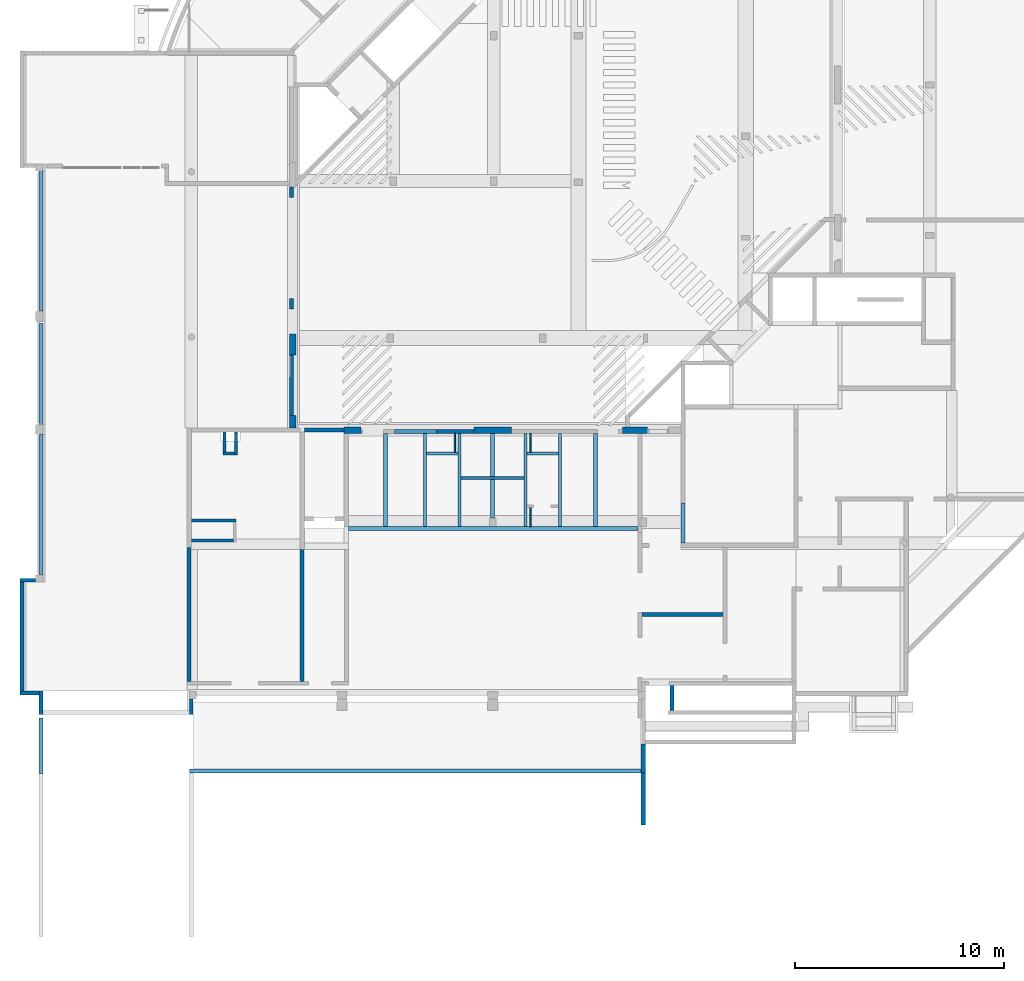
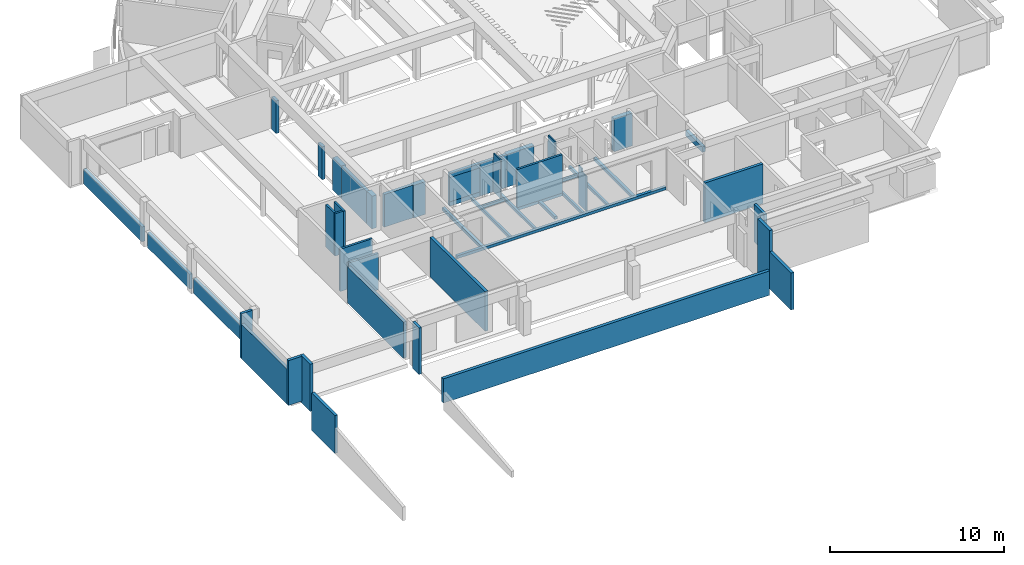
# One storey, part 7 of 22: 50 walls.
"""IFC4X3_ADD2 building model written with IfcOpenShell, lengths in millimetres."""

from ifc_helpers import new_model, si_unit, direction, frame, frame_2d, origin_with_axes, origin_2d_with_axis, place, context, subcontext, project, spatial, polyline, rectangle, outline, extrude, source, transform, mapped, material, type_object, type_shapes, element, save


model = new_model("IFC4X3_ADD2")

# Units and contexts
model_context = context("Model", 3, precision=1e-05, world=origin_with_axes(), true_north=direction((0.0, 1.0)))
body_context = subcontext(model_context, "Body", "Model", "MODEL_VIEW")
ifc_project = project(units=[si_unit("LENGTHUNIT", "METRE", prefix="MILLI"), si_unit("AREAUNIT", "SQUARE_METRE"), si_unit("VOLUMEUNIT", "CUBIC_METRE"), si_unit("PLANEANGLEUNIT", "RADIAN"), si_unit("TIMEUNIT", "SECOND"), si_unit("MASSUNIT", "GRAM")], contexts=[model_context])

# Site, building, storey
site_placement = place(None, origin_with_axes())
site = spatial("IfcSite", under=ifc_project, at=site_placement, Name="Site", CompositionType="ELEMENT")
building_placement = place(site_placement, origin_with_axes())
building = spatial("IfcBuilding", under=site, at=building_placement, Name="IFC Building Story")
storey_placement = place(building_placement, frame((0.0, 0.0, -3240.0), z_axis=(0.0, 0.0, 1.0), x_axis=(1.0, 0.0, 0.0)))
storey = spatial("IfcBuildingStorey", under=building, at=storey_placement, Name="K10", Elevation=-3240.0)

# Walls
ifc_material_1 = material(Name="BB_Beton_Bestaand")
wall_type_1 = type_object("IfcWallType", Name="BB_Beton_Bestaand 200", PredefinedType="NOTDEFINED", material=ifc_material_1)
wall_1_placement = place(storey_placement, origin_with_axes())
element("IfcWall", 1, at=wall_1_placement, inside=storey, type_object=wall_type_1, Name="Basic Wall:BB_XX_Wand uit beton, 200 mm", ObjectType="Basic Wall:BB_XX_Wand uit beton, 200 mm", PredefinedType="SOLIDWALL", context=body_context, shape_type="SweptSolid", body=[
    extrude(rectangle(XDim=1900.0, YDim=199.9999999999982, at=origin_2d_with_axis()), frame((-37150.0, 12600.0040658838, 0.0), z_axis=(0.0, 0.0, 1.0), x_axis=(1.0, 0.0, 0.0)), (0.0, 0.0, 1.0), 2290.0),
])
wall_2_placement = place(storey_placement, origin_with_axes())
element("IfcWall", 2, at=wall_2_placement, inside=storey, type_object=wall_type_1, Name="Basic Wall:BB_XX_Wand uit beton, 200 mm", ObjectType="Basic Wall:BB_XX_Wand uit beton, 200 mm", PredefinedType="SOLIDWALL", context=body_context, shape_type="SweptSolid", body=[
    extrude(rectangle(XDim=21595.0000000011, YDim=200.0, at=origin_2d_with_axis()), frame((-32797.50000000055, -3700.0, -500.0), z_axis=(0.0, 0.0, 1.0), x_axis=(1.0, 0.0, 0.0)), (0.0, 0.0, 1.0), 1700.0),
])
wall_3_placement = place(storey_placement, origin_with_axes())
element("IfcWall", 3, at=wall_3_placement, inside=storey, type_object=wall_type_1, Name="Basic Wall:BB_XX_Wand uit beton, 200 mm", ObjectType="Basic Wall:BB_XX_Wand uit beton, 200 mm", PredefinedType="SOLIDWALL", context=body_context, shape_type="SweptSolid", body=[
    extrude(rectangle(XDim=1395.00000000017, YDim=200.0, at=frame_2d((0.0, 0.0), x_axis=(0.0, 1.0))), frame((-21900.0, -3102.500000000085, -50.0), z_axis=(0.0, 0.0, 1.0), x_axis=(1.0, 0.0, 0.0)), (0.0, 0.0, 1.0), 4060.00000000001),
])
wall_4_placement = place(storey_placement, origin_with_axes())
element("IfcWall", 4, at=wall_4_placement, inside=storey, type_object=wall_type_1, Name="Basic Wall:BB_XX_Wand uit beton, 200 mm", ObjectType="Basic Wall:BB_XX_Wand uit beton, 200 mm", PredefinedType="SOLIDWALL", context=body_context, shape_type="SweptSolid", body=[
    extrude(rectangle(XDim=2469.5811674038, YDim=200.0, at=frame_2d((0.0, 0.0), x_axis=(0.0, 1.0))), frame((-21900.0, -5034.7905837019, -50.0), z_axis=(0.0, 0.0, 1.0), x_axis=(1.0, 0.0, 0.0)), (0.0, 0.0, 1.0), 2590.0),
])
wall_type_2 = type_object("IfcWallType", Name="BB_Beton_Bestaand 190", PredefinedType="NOTDEFINED", material=ifc_material_1)
wall_5_placement = place(storey_placement, origin_with_axes())
element("IfcWall", 5, at=wall_5_placement, inside=storey, type_object=wall_type_2, Name="Basic Wall:BB_XX_Wand uit beton, 190 mm", ObjectType="Basic Wall:BB_XX_Wand uit beton, 190 mm", PredefinedType="SOLIDWALL", context=body_context, shape_type="SweptSolid", body=[
    extrude(rectangle(XDim=1124.99999999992, YDim=189.9999999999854, at=frame_2d((0.0, 0.0), x_axis=(0.0, 1.0))), frame((-50700.0, -432.50000000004, -260.0), z_axis=(0.0, 0.0, 1.0), x_axis=(1.0, 0.0, 0.0)), (0.0, 0.0, 1.0), 3300.0),
])
wall_6_placement = place(storey_placement, origin_with_axes())
element("IfcWall", 6, at=wall_6_placement, inside=storey, type_object=wall_type_2, Name="Basic Wall:BB_XX_Wand uit beton, 190 mm", ObjectType="Basic Wall:BB_XX_Wand uit beton, 190 mm", PredefinedType="SOLIDWALL", context=body_context, shape_type="SweptSolid", body=[
    extrude(rectangle(XDim=900.0000000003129, YDim=190.0, at=origin_2d_with_axis()), frame((-51245.00000000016, 35.0, -100.0), z_axis=(0.0, 0.0, 1.0), x_axis=(1.0, 0.0, 0.0)), (0.0, 0.0, 1.0), 3140.0),
])
wall_7_placement = place(storey_placement, origin_with_axes())
element("IfcWall", 7, at=wall_7_placement, inside=storey, type_object=wall_type_2, Name="Basic Wall:BB_XX_Wand uit beton, 190 mm", ObjectType="Basic Wall:BB_XX_Wand uit beton, 190 mm", PredefinedType="SOLIDWALL", context=body_context, shape_type="SweptSolid", body=[
    extrude(rectangle(XDim=5210.00000000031, YDim=189.9999999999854, at=frame_2d((0.0, 0.0), x_axis=(0.0, 1.0))), frame((-51600.0, 2735.000000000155, -100.0), z_axis=(0.0, 0.0, 1.0), x_axis=(1.0, 0.0, 0.0)), (0.0, 0.0, 1.0), 2440.0),
])
wall_8_placement = place(storey_placement, origin_with_axes())
element("IfcWall", 8, at=wall_8_placement, inside=storey, type_object=wall_type_2, Name="Basic Wall:BB_XX_Wand uit beton, 190 mm", ObjectType="Basic Wall:BB_XX_Wand uit beton, 190 mm", PredefinedType="SOLIDWALL", context=body_context, shape_type="SweptSolid", body=[
    extrude(rectangle(XDim=2650.0, YDim=189.9999999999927, at=frame_2d((0.0, 0.0), x_axis=(0.0, 1.0))), frame((-50700.0, -2490.0, -1500.0), z_axis=(0.0, 0.0, 1.0), x_axis=(1.0, 0.0, 0.0)), (0.0, 0.0, 1.0), 2650.0),
])
wall_type_3 = type_object("IfcWallType", Name="BB_Beton_Bestaand 170", PredefinedType="NOTDEFINED", material=ifc_material_1)
wall_9_placement = place(storey_placement, origin_with_axes())
element("IfcWall", 9, at=wall_9_placement, inside=storey, type_object=wall_type_3, Name="Basic Wall:BB_XX_Wand uit beton, 170 mm", ObjectType="Basic Wall:BB_XX_Wand uit beton, 170 mm", PredefinedType="SOLIDWALL", context=body_context, shape_type="SweptSolid", body=[
    extrude(rectangle(XDim=750.000000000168, YDim=170.0, at=frame_2d((0.0, 0.0), x_axis=(0.0, 1.0))), frame((-43510.0, -619.999999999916, -200.0), z_axis=(0.0, 0.0, 1.0), x_axis=(1.0, 0.0, 0.0)), (0.0, 0.0, 1.0), 3240.0),
])
wall_10_placement = place(storey_placement, origin_with_axes())
element("IfcWall", 10, at=wall_10_placement, inside=storey, type_object=wall_type_3, Name="Basic Wall:BB_XX_Wand uit beton, 170 mm", ObjectType="Basic Wall:BB_XX_Wand uit beton, 170 mm", PredefinedType="SOLIDWALL", context=body_context, shape_type="SweptSolid", body=[
    extrude(rectangle(XDim=749.9999999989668, YDim=170.0, at=origin_2d_with_axis()), frame((-51320.00000000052, 5425.0, -100.0), z_axis=(0.0, 0.0, 1.0), x_axis=(1.0, 0.0, 0.0)), (0.0, 0.0, 1.0), 3140.0),
])
wall_type_4 = type_object("IfcWallType", Name="BB_Beton_Bestaand 300", PredefinedType="NOTDEFINED", material=ifc_material_1)
wall_11_placement = place(storey_placement, origin_with_axes())
element("IfcWall", 11, at=wall_11_placement, inside=storey, type_object=wall_type_4, Name="Basic Wall:BB_XX_Wand uit beton, 300 mm", ObjectType="Basic Wall:BB_XX_Wand uit beton, 300 mm", PredefinedType="SOLIDWALL", context=body_context, shape_type="SweptSolid", body=[
    extrude(rectangle(XDim=799.9999999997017, YDim=300.0000000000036, at=origin_2d_with_axis()), frame((-35799.99999999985, 12600.0, 0.0), z_axis=(0.0, 0.0, 1.0), x_axis=(1.0, 0.0, 0.0)), (0.0, 0.0, 1.0), 2290.0),
])
wall_12_placement = place(storey_placement, origin_with_axes())
element("IfcWall", 12, at=wall_12_placement, inside=storey, type_object=wall_type_4, Name="Basic Wall:BB_XX_Wand uit beton, 300 mm", ObjectType="Basic Wall:BB_XX_Wand uit beton, 300 mm", PredefinedType="SOLIDWALL", context=body_context, shape_type="SweptSolid", body=[
    extrude(rectangle(XDim=1800.0, YDim=300.0000000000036, at=origin_2d_with_axis()), frame((-29100.0, 12600.0, 0.0), z_axis=(0.0, 0.0, 1.0), x_axis=(1.0, 0.0, 0.0)), (0.0, 0.0, 1.0), 2290.0),
])
wall_13_placement = place(storey_placement, origin_with_axes())
element("IfcWall", 13, at=wall_13_placement, inside=storey, type_object=wall_type_4, Name="Basic Wall:BB_XX_Wand uit beton, 300 mm", ObjectType="Basic Wall:BB_XX_Wand uit beton, 300 mm", PredefinedType="SOLIDWALL", context=body_context, shape_type="SweptSolid", body=[
    extrude(rectangle(XDim=1199.999999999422, YDim=300.0000000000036, at=origin_2d_with_axis()), frame((-22299.99999999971, 12600.0, 0.0), z_axis=(0.0, 0.0, 1.0), x_axis=(1.0, 0.0, 0.0)), (0.0, 0.0, 1.0), 2290.0),
])
wall_14_placement = place(storey_placement, origin_with_axes())
element("IfcWall", 14, at=wall_14_placement, inside=storey, type_object=wall_type_4, Name="Basic Wall:BB_XX_Wand uit beton, 300 mm", ObjectType="Basic Wall:BB_XX_Wand uit beton, 300 mm", PredefinedType="SOLIDWALL", context=body_context, shape_type="SweptSolid", body=[
    extrude(rectangle(XDim=599.9959341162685, YDim=300.0, at=frame_2d((0.0, 0.0), x_axis=(0.0, 1.0))), frame((-38650.0, 13000.00203294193, 0.0), z_axis=(0.0, 0.0, 1.0), x_axis=(1.0, 0.0, 0.0)), (0.0, 0.0, 1.0), 2290.0),
])
wall_15_placement = place(storey_placement, origin_with_axes())
element("IfcWall", 15, at=wall_15_placement, inside=storey, type_object=wall_type_4, Name="Basic Wall:BB_XX_Wand uit beton, 300 mm", ObjectType="Basic Wall:BB_XX_Wand uit beton, 300 mm", PredefinedType="SOLIDWALL", context=body_context, shape_type="SweptSolid", body=[
    extrude(rectangle(XDim=1000.0, YDim=300.0, at=frame_2d((0.0, 0.0), x_axis=(0.0, 1.0))), frame((-38650.0, 16700.0, 0.0), z_axis=(0.0, 0.0, 1.0), x_axis=(1.0, 0.0, 0.0)), (0.0, 0.0, 1.0), 2290.0),
])
ifc_material_2 = material(Name="BB_Metselwerk_Bestaand")
wall_type_5 = type_object("IfcWallType", Name="BB_Metselwerk_Bestaand 190", PredefinedType="NOTDEFINED", material=ifc_material_2)
wall_16_placement = place(storey_placement, origin_with_axes())
element("IfcWall", 16, at=wall_16_placement, inside=storey, type_object=wall_type_5, Name="Basic Wall:BB_XX_Wand uit metselwerk, 190 mm", ObjectType="Basic Wall:BB_XX_Wand uit metselwerk, 190 mm", PredefinedType="SOLIDWALL", context=body_context, shape_type="SweptSolid", body=[
    extrude(rectangle(XDim=1790.0, YDim=190.0, at=origin_2d_with_axis()), frame((-30895.0, 12545.0, 0.0), z_axis=(0.0, 0.0, 1.0), x_axis=(1.0, 0.0, 0.0)), (0.0, 0.0, 1.0), 2290.0),
])
wall_17_placement = place(storey_placement, origin_with_axes())
element("IfcWall", 17, at=wall_17_placement, inside=storey, type_object=wall_type_5, Name="Basic Wall:BB_XX_Wand uit metselwerk, 190 mm", ObjectType="Basic Wall:BB_XX_Wand uit metselwerk, 190 mm", PredefinedType="SOLIDWALL", context=body_context, shape_type="SweptSolid", body=[
    extrude(rectangle(XDim=2899.999999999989, YDim=190.0, at=frame_2d((0.0, 0.0), x_axis=(0.0, 1.0))), frame((-38705.0, 14749.99999999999, 0.0), z_axis=(0.0, 0.0, 1.0), x_axis=(1.0, 0.0, 0.0)), (0.0, 0.0, 1.0), 2290.0),
])
wall_18_placement = place(storey_placement, origin_with_axes())
element("IfcWall", 18, at=wall_18_placement, inside=storey, type_object=wall_type_5, Name="Basic Wall:BB_XX_Wand uit metselwerk, 190 mm", ObjectType="Basic Wall:BB_XX_Wand uit metselwerk, 190 mm", PredefinedType="SOLIDWALL", context=body_context, shape_type="SweptSolid", body=[
    extrude(rectangle(XDim=502.033190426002, YDim=190.0, at=frame_2d((0.0, 0.0), x_axis=(0.0, 1.0))), frame((-38705.0, 23961.483404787, 0.0), z_axis=(0.0, 0.0, 1.0), x_axis=(1.0, 0.0, 0.0)), (0.0, 0.0, 1.0), 2290.0),
])
wall_19_placement = place(storey_placement, origin_with_axes())
element("IfcWall", 19, at=wall_19_placement, inside=storey, type_object=wall_type_5, Name="Basic Wall:BB_XX_Wand uit metselwerk, 190 mm", ObjectType="Basic Wall:BB_XX_Wand uit metselwerk, 190 mm", PredefinedType="SOLIDWALL", context=body_context, shape_type="SweptSolid", body=[
    extrude(rectangle(XDim=6685.00000000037, YDim=189.9999999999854, at=frame_2d((0.0, 0.0), x_axis=(0.0, 1.0))), frame((-50700.0, 9042.499999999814, -100.0), z_axis=(0.0, 0.0, 1.0), x_axis=(1.0, 0.0, 0.0)), (0.0, 0.0, 1.0), 1040.0),
])
wall_20_placement = place(storey_placement, origin_with_axes())
element("IfcWall", 20, at=wall_20_placement, inside=storey, type_object=wall_type_5, Name="Basic Wall:BB_XX_Wand uit metselwerk, 190 mm", ObjectType="Basic Wall:BB_XX_Wand uit metselwerk, 190 mm", PredefinedType="SOLIDWALL", context=body_context, shape_type="SweptSolid", body=[
    extrude(rectangle(XDim=4847.499999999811, YDim=189.9999999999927, at=frame_2d((0.0, 0.0), x_axis=(0.0, 1.0))), frame((-50700.0, 15268.75000000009, -100.0), z_axis=(0.0, 0.0, 1.0), x_axis=(1.0, 0.0, 0.0)), (0.0, 0.0, 1.0), 1040.0),
])
wall_21_placement = place(storey_placement, origin_with_axes())
element("IfcWall", 21, at=wall_21_placement, inside=storey, type_object=wall_type_5, Name="Basic Wall:BB_XX_Wand uit metselwerk, 190 mm", ObjectType="Basic Wall:BB_XX_Wand uit metselwerk, 190 mm", PredefinedType="SOLIDWALL", context=body_context, shape_type="SweptSolid", body=[
    extrude(rectangle(XDim=6710.000000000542, YDim=189.9999999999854, at=frame_2d((0.0, 0.0), x_axis=(0.0, 1.0))), frame((-50700.0, 21662.50000000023, -100.0), z_axis=(0.0, 0.0, 1.0), x_axis=(1.0, 0.0, 0.0)), (0.0, 0.0, 1.0), 1040.0),
])
wall_22_placement = place(storey_placement, origin_with_axes())
element("IfcWall", 22, at=wall_22_placement, inside=storey, type_object=wall_type_5, Name="Basic Wall:BB_XX_Wand uit metselwerk, 190 mm", ObjectType="Basic Wall:BB_XX_Wand uit metselwerk, 190 mm", PredefinedType="SOLIDWALL", context=body_context, shape_type="SweptSolid", body=[
    extrude(rectangle(XDim=2009.999999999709, YDim=190.0, at=origin_2d_with_axis()), frame((-32794.99999999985, 12545.0, 0.0), z_axis=(0.0, 0.0, 1.0), x_axis=(1.0, 0.0, 0.0)), (0.0, 0.0, 1.0), 299.350290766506),
])
wall_23_placement = place(storey_placement, origin_with_axes())
element("IfcWall", 23, at=wall_23_placement, inside=storey, type_object=wall_type_5, Name="Basic Wall:BB_XX_Wand uit metselwerk, 190 mm", ObjectType="Basic Wall:BB_XX_Wand uit metselwerk, 190 mm", PredefinedType="SOLIDWALL", context=body_context, shape_type="SweptSolid", body=[
    extrude(rectangle(XDim=2009.999999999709, YDim=190.0, at=origin_2d_with_axis()), frame((-32794.99999999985, 12545.0, 1997.67106577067), z_axis=(0.0, 0.0, 1.0), x_axis=(1.0, 0.0, 0.0)), (0.0, 0.0, 1.0), 292.328934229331),
])
wall_24_placement = place(storey_placement, origin_with_axes())
element("IfcWall", 24, at=wall_24_placement, inside=storey, type_object=wall_type_5, Name="Basic Wall:BB_XX_Wand uit metselwerk, 190 mm", ObjectType="Basic Wall:BB_XX_Wand uit metselwerk, 190 mm", PredefinedType="SOLIDWALL", context=body_context, shape_type="SweptSolid", body=[
    extrude(rectangle(XDim=490.0, YDim=190.0, at=frame_2d((0.0, 0.0), x_axis=(0.0, 1.0))), frame((-38705.0, 18645.0, 0.0), z_axis=(0.0, 0.0, 1.0), x_axis=(1.0, 0.0, 0.0)), (0.0, 0.0, 1.0), 2290.0),
])
ifc_material_3 = material(Name="BB_Metselwerk_Betonsteen")
wall_type_6 = type_object("IfcWallType", Name="BB_Metselwerk_Betonsteen 190", PredefinedType="NOTDEFINED", material=ifc_material_3)
wall_25_placement = place(storey_placement, origin_with_axes())
element("IfcWall", 25, at=wall_25_placement, inside=storey, type_object=wall_type_6, Name="Basic Wall:BB_03.09.24#05_Wand uit metselwerk_EI60, 190 mm", ObjectType="Basic Wall:BB_03.09.24#05_Wand uit metselwerk_EI60, 190 mm", PredefinedType="SOLIDWALL", context=body_context, shape_type="SweptSolid", body=[
    extrude(rectangle(XDim=1200.0, YDim=190.0, at=frame_2d((0.0, 0.0), x_axis=(0.0, 1.0))), frame((-20525.0, -205.0, 217.7777777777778), z_axis=(0.0, 0.0, 1.0), x_axis=(1.0, 0.0, 0.0)), (0.0, 0.0, 1.0), 2622.22222222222),
])
wall_26_placement = place(storey_placement, origin_with_axes())
element("IfcWall", 26, at=wall_26_placement, inside=storey, type_object=wall_type_6, Name="Basic Wall:BB_03.09.24#05_Wand uit metselwerk_EI60, 190 mm", ObjectType="Basic Wall:BB_03.09.24#05_Wand uit metselwerk_EI60, 190 mm", PredefinedType="SOLIDWALL", context=body_context, shape_type="SweptSolid", body=[
    extrude(rectangle(XDim=3860.0, YDim=190.0, at=origin_2d_with_axis()), frame((-20025.0, 3790.0, 0.0), z_axis=(0.0, 0.0, 1.0), x_axis=(1.0, 0.0, 0.0)), (0.0, 0.0, 1.0), 2780.0),
])
wall_27_placement = place(storey_placement, origin_with_axes())
element("IfcWall", 27, at=wall_27_placement, inside=storey, type_object=wall_type_6, Name="Basic Wall:BB_03.09.24#05_Wand uit metselwerk_EI60, 190 mm", ObjectType="Basic Wall:BB_03.09.24#05_Wand uit metselwerk_EI60, 190 mm", PredefinedType="SOLIDWALL", context=body_context, shape_type="SweptSolid", body=[
    extrude(rectangle(XDim=6405.000000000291, YDim=189.9999999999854, at=frame_2d((0.0, 0.0), x_axis=(0.0, 1.0))), frame((-43605.0, 3797.500000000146, 0.0), z_axis=(0.0, 0.0, 1.0), x_axis=(1.0, 0.0, 0.0)), (0.0, 0.0, 1.0), 2540.0),
])
wall_28_placement = place(storey_placement, origin_with_axes())
element("IfcWall", 28, at=wall_28_placement, inside=storey, type_object=wall_type_6, Name="Basic Wall:BB_03.09.24#05_Wand uit metselwerk_EI60, 190 mm", ObjectType="Basic Wall:BB_03.09.24#05_Wand uit metselwerk_EI60, 190 mm", PredefinedType="SOLIDWALL", context=body_context, shape_type="SweptSolid", body=[
    extrude(rectangle(XDim=6305.00000000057, YDim=190.0, at=frame_2d((0.0, 0.0), x_axis=(0.0, 1.0))), frame((-38205.0, 3747.499999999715, 0.0), z_axis=(0.0, 0.0, 1.0), x_axis=(1.0, 0.0, 0.0)), (0.0, 0.0, 1.0), 2780.0),
])
wall_29_placement = place(storey_placement, origin_with_axes())
element("IfcWall", 29, at=wall_29_placement, inside=storey, type_object=wall_type_6, Name="Basic Wall:BB_03.09.24#05_Wand uit metselwerk_EI60, 190 mm", ObjectType="Basic Wall:BB_03.09.24#05_Wand uit metselwerk_EI60, 190 mm", PredefinedType="SOLIDWALL", context=body_context, shape_type="SweptSolid", body=[
    extrude(rectangle(XDim=2009.999999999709, YDim=190.0, at=origin_2d_with_axis()), frame((-32794.99999999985, 12545.0, 299.3502907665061), z_axis=(0.0, 0.0, 1.0), x_axis=(1.0, 0.0, 0.0)), (0.0, 0.0, 1.0), 1698.32077500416),
])
wall_type_7 = type_object("IfcWallType", Name="Basic Wall_BB_10.01.62#02_Voorzetwand gipskarton_ sanitair_MS75 _ 50.25_ 75 mm3", PredefinedType="NOTDEFINED")
shared_shape_1 = source(origin_with_axes(), body_context, "Body", "SweptSolid", [
    extrude(outline(polyline([(-333.3333333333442, 1640.0), (566.666666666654, 1640.0), (566.666666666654, -1065.0), (-233.3333333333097, -1065.0), (-233.3333333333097, -575.0), (-333.3333333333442, -575.0), (-333.3333333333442, 1640.0)])), frame((333.3333333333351, -37.50000000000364, 1640.0), z_axis=(0.0, 1.0, 0.0), x_axis=(1.0, 0.0, 0.0)), (0.0, 0.0, 1.0), 12.5),
    extrude(outline(polyline([(-333.3333333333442, 1640.0), (566.666666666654, 1640.0), (566.666666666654, -1065.0), (-233.3333333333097, -1065.0), (-233.3333333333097, -575.0), (-333.3333333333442, -575.0), (-333.3333333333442, 1640.0)])), frame((333.3333333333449, -25.0, 1640.0), z_axis=(0.0, 1.0, 0.0), x_axis=(1.0, 0.0, 0.0)), (0.0, 0.0, 1.0), 12.49999999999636),
    extrude(outline(polyline([(-333.3333333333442, 1640.0), (566.666666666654, 1640.0), (566.666666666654, -1065.0), (-233.3333333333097, -1065.0), (-233.3333333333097, -575.0), (-333.3333333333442, -575.0), (-333.3333333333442, 1640.0)])), frame((333.3333333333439, -12.5, 1640.0), z_axis=(0.0, 1.0, 0.0), x_axis=(1.0, 0.0, 0.0)), (0.0, 0.0, 1.0), 50.0),
])
type_shapes(wall_type_7, [shared_shape_1])
wall_30_placement = place(storey_placement, frame((-30907.5, 12450.0, 75.0), z_axis=(0.0, 0.0, 1.0), x_axis=(0.0, -1.0, 0.0)))
element("IfcWall", 30, at=wall_30_placement, inside=storey, type_object=wall_type_7, Name="Basic Wall:BB_10.01.62#02_Voorzetwand gipskarton, sanitair_MS75 / 50.25, 75 mm", ObjectType="Basic Wall:BB_10.01.62#02_Voorzetwand gipskarton, sanitair_MS75 / 50.25, 75 mm", PredefinedType="PARTITIONING", context=body_context, shape_type="MappedRepresentation", body=[
    mapped(shared_shape_1, transform((0.0, 0.0, 0.0))),
])
wall_type_8 = type_object("IfcWallType", Name="Basic Wall_BB_10.01.62#02_Voorzetwand gipskarton_ sanitair_MS75 _ 50.25_ 75 mm5", PredefinedType="NOTDEFINED")
shared_shape_2 = source(origin_with_axes(), body_context, "Body", "SweptSolid", [
    extrude(outline(polyline([(-566.6666666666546, -1065.0), (-566.6666666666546, 1640.0), (333.3333333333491, 1640.0), (333.3333333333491, -575.0), (233.3333333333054, -575.0), (233.3333333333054, -1065.0), (-566.6666666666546, -1065.0)])), frame((566.6666666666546, -37.50000000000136, 1640.0), z_axis=(0.0, 1.0, 0.0), x_axis=(1.0, 0.0, 0.0)), (0.0, 0.0, 1.0), 12.50000000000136),
    extrude(outline(polyline([(-566.6666666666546, -1065.0), (-566.6666666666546, 1640.0), (333.3333333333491, 1640.0), (333.3333333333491, -575.0), (233.3333333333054, -575.0), (233.3333333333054, -1065.0), (-566.6666666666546, -1065.0)])), frame((566.6666666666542, -25.00000000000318, 1640.0), z_axis=(0.0, 1.0, 0.0), x_axis=(1.0, 0.0, 0.0)), (0.0, 0.0, 1.0), 12.49999999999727),
    extrude(outline(polyline([(233.3333333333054, -1065.0), (-566.6666666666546, -1065.0), (-566.6666666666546, 1640.0), (333.3333333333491, 1640.0), (333.3333333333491, -575.0), (233.3333333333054, -575.0), (233.3333333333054, -1065.0)])), frame((566.6666666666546, -12.50000000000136, 1640.0), z_axis=(0.0, 1.0, 0.0), x_axis=(1.0, 0.0, 0.0)), (0.0, 0.0, 1.0), 50.00000000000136),
])
type_shapes(wall_type_8, [shared_shape_2])
wall_31_placement = place(storey_placement, frame((-27292.5000000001, 11550.0, 75.0), z_axis=(0.0, 0.0, 1.0), x_axis=(0.0, 1.0, 0.0)))
element("IfcWall", 31, at=wall_31_placement, inside=storey, type_object=wall_type_8, Name="Basic Wall:BB_10.01.62#02_Voorzetwand gipskarton, sanitair_MS75 / 50.25, 75 mm", ObjectType="Basic Wall:BB_10.01.62#02_Voorzetwand gipskarton, sanitair_MS75 / 50.25, 75 mm", PredefinedType="PARTITIONING", context=body_context, shape_type="MappedRepresentation", body=[
    mapped(shared_shape_2, transform((0.0, 0.0, 0.0))),
])
wall_type_9 = type_object("IfcWallType", Name="Basic Wall_BB_10.01.62#02_Voorzetwand gipskarton_ sanitair_MS75 _ 50.25_ 75 mm7", PredefinedType="NOTDEFINED")
shared_shape_3 = source(origin_with_axes(), body_context, "Body", "SweptSolid", [
    extrude(outline(polyline([(-426.6666666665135, 1723.333333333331), (473.3333333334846, 1723.333333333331), (473.3333333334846, -741.6666666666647), (-46.66666666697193, -741.6666666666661), (-46.66666666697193, -981.6666666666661), (-426.6666666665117, -981.6666666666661), (-426.6666666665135, 1723.333333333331)])), frame((426.6666666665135, 25.0, 1723.333333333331), z_axis=(0.0, 1.0, 0.0), x_axis=(1.0, 0.0, 0.0)), (0.0, 0.0, 1.0), 12.50000000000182),
    extrude(outline(polyline([(-426.6666666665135, 1723.333333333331), (473.3333333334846, 1723.333333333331), (473.3333333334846, -741.6666666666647), (-46.66666666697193, -741.6666666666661), (-46.66666666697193, -981.6666666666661), (-426.6666666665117, -981.6666666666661), (-426.6666666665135, 1723.333333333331)])), frame((426.6666666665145, 12.50000000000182, 1723.333333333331), z_axis=(0.0, 1.0, 0.0), x_axis=(1.0, 0.0, 0.0)), (0.0, 0.0, 1.0), 12.49999999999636),
    extrude(outline(polyline([(-426.6666666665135, 1723.333333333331), (473.3333333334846, 1723.333333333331), (473.3333333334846, -741.6666666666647), (-46.66666666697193, -741.6666666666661), (-46.66666666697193, -981.6666666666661), (-426.6666666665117, -981.6666666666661), (-426.6666666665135, 1723.333333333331)])), frame((426.6666666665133, -37.5, 1723.333333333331), z_axis=(0.0, 1.0, 0.0), x_axis=(1.0, 0.0, 0.0)), (0.0, 0.0, 1.0), 50.00000000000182),
])
type_shapes(wall_type_9, [shared_shape_3])
wall_32_placement = place(storey_placement, frame((-27292.5000000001, 8890.0, 75.0), z_axis=(0.0, 0.0, 1.0), x_axis=(0.0, -1.0, 0.0)))
element("IfcWall", 32, at=wall_32_placement, inside=storey, type_object=wall_type_9, Name="Basic Wall:BB_10.01.62#02_Voorzetwand gipskarton, sanitair_MS75 / 50.25, 75 mm", ObjectType="Basic Wall:BB_10.01.62#02_Voorzetwand gipskarton, sanitair_MS75 / 50.25, 75 mm", PredefinedType="PARTITIONING", context=body_context, shape_type="MappedRepresentation", body=[
    mapped(shared_shape_3, transform((0.0, 0.0, 0.0))),
])
wall_type_10 = type_object("IfcWallType", Name="BB_Metselwerk_Bestaand 200", PredefinedType="NOTDEFINED", material=ifc_material_2)
wall_33_placement = place(storey_placement, origin_with_axes())
element("IfcWall", 33, at=wall_33_placement, inside=storey, type_object=wall_type_10, Name="Basic Wall:BB_XX_Wand uit metselwerk, 200 mm", ObjectType="Basic Wall:BB_XX_Wand uit metselwerk, 200 mm", PredefinedType="SOLIDWALL", context=body_context, shape_type="SweptSolid", body=[
    extrude(rectangle(XDim=1920.00000000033, YDim=200.0, at=frame_2d((0.0, 0.0), x_axis=(0.0, 1.0))), frame((-20000.0, 8159.999999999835, 2150.0), z_axis=(0.0, 0.0, 1.0), x_axis=(1.0, 0.0, 0.0)), (0.0, 0.0, 1.0), 390.0),
])
ifc_material_4 = material(Name="BB_Metselwerk_Cellenbeton")
wall_type_11 = type_object("IfcWallType", Name="BB_Metselwerk_Cellenbeton 190", PredefinedType="NOTDEFINED", material=ifc_material_4)
wall_34_placement = place(storey_placement, origin_with_axes())
element("IfcWall", 34, at=wall_34_placement, inside=storey, type_object=wall_type_11, Name="Basic Wall:BB_03.12.81#04_Wand uit cellenbeton, 190 mm", ObjectType="Basic Wall:BB_03.12.81#04_Wand uit cellenbeton, 190 mm", PredefinedType="SOLIDWALL", context=body_context, shape_type="SweptSolid", body=[
    extrude(rectangle(XDim=13854.9999999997, YDim=190.0, at=origin_2d_with_axis()), frame((-29072.50000000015, 7895.0, -100.0), z_axis=(0.0, 0.0, 1.0), x_axis=(1.0, 0.0, 0.0)), (0.0, 0.0, 1.0), 200.0),
])
wall_35_placement = place(storey_placement, origin_with_axes())
element("IfcWall", 35, at=wall_35_placement, inside=storey, type_object=wall_type_11, Name="Basic Wall:BB_03.12.81#04_Wand uit cellenbeton, 190 mm", ObjectType="Basic Wall:BB_03.12.81#04_Wand uit cellenbeton, 190 mm", PredefinedType="SOLIDWALL", context=body_context, shape_type="SweptSolid", body=[
    extrude(rectangle(XDim=4460.000000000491, YDim=190.0, at=frame_2d((0.0, 0.0), x_axis=(0.0, 1.0))), frame((-24190.0, 10220.00000000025, -100.0), z_axis=(0.0, 0.0, 1.0), x_axis=(1.0, 0.0, 0.0)), (0.0, 0.0, 1.0), 200.0),
])
wall_36_placement = place(storey_placement, origin_with_axes())
element("IfcWall", 36, at=wall_36_placement, inside=storey, type_object=wall_type_11, Name="Basic Wall:BB_03.12.81#04_Wand uit cellenbeton, 190 mm", ObjectType="Basic Wall:BB_03.12.81#04_Wand uit cellenbeton, 190 mm", PredefinedType="SOLIDWALL", context=body_context, shape_type="SweptSolid", body=[
    extrude(rectangle(XDim=4050.000000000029, YDim=190.0, at=frame_2d((0.0, 0.0), x_axis=(0.0, 1.0))), frame((-29100.0, 10425.00000000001, -100.0), z_axis=(0.0, 0.0, 1.0), x_axis=(1.0, 0.0, 0.0)), (0.0, 0.0, 1.0), 200.0),
])
wall_37_placement = place(storey_placement, origin_with_axes())
element("IfcWall", 37, at=wall_37_placement, inside=storey, type_object=wall_type_11, Name="Basic Wall:BB_03.12.81#04_Wand uit cellenbeton, 190 mm", ObjectType="Basic Wall:BB_03.12.81#04_Wand uit cellenbeton, 190 mm", PredefinedType="SOLIDWALL", context=body_context, shape_type="SweptSolid", body=[
    extrude(rectangle(XDim=4460.000000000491, YDim=190.0, at=frame_2d((0.0, 0.0), x_axis=(0.0, 1.0))), frame((-34215.0, 10220.00000000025, -100.0), z_axis=(0.0, 0.0, 1.0), x_axis=(1.0, 0.0, 0.0)), (0.0, 0.0, 1.0), 200.0),
])
wall_type_12 = type_object("IfcWallType", Name="BB_Metselwerk_Cellenbeton 140", PredefinedType="NOTDEFINED", material=ifc_material_4)
wall_38_placement = place(storey_placement, origin_with_axes())
element("IfcWall", 38, at=wall_38_placement, inside=storey, type_object=wall_type_12, Name="Basic Wall:BB_03.12.81#03_Wand uit cellenbeton, 140 mm", ObjectType="Basic Wall:BB_03.12.81#03_Wand uit cellenbeton, 140 mm", PredefinedType="SOLIDWALL", context=body_context, shape_type="SweptSolid", body=[
    extrude(rectangle(XDim=4460.000000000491, YDim=140.0, at=frame_2d((0.0, 0.0), x_axis=(0.0, 1.0))), frame((-32325.0, 10220.00000000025, -100.0), z_axis=(0.0, 0.0, 1.0), x_axis=(1.0, 0.0, 0.0)), (0.0, 0.0, 1.0), 200.0),
])
wall_39_placement = place(storey_placement, origin_with_axes())
element("IfcWall", 39, at=wall_39_placement, inside=storey, type_object=wall_type_12, Name="Basic Wall:BB_03.12.81#03_Wand uit cellenbeton, 140 mm", ObjectType="Basic Wall:BB_03.12.81#03_Wand uit cellenbeton, 140 mm", PredefinedType="SOLIDWALL", context=body_context, shape_type="SweptSolid", body=[
    extrude(rectangle(XDim=4460.000000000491, YDim=140.0, at=frame_2d((0.0, 0.0), x_axis=(0.0, 1.0))), frame((-30675.0, 10220.00000000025, -100.0), z_axis=(0.0, 0.0, 1.0), x_axis=(1.0, 0.0, 0.0)), (0.0, 0.0, 1.0), 200.0),
])
wall_40_placement = place(storey_placement, origin_with_axes())
element("IfcWall", 40, at=wall_40_placement, inside=storey, type_object=wall_type_12, Name="Basic Wall:BB_03.12.81#03_Wand uit cellenbeton, 140 mm", ObjectType="Basic Wall:BB_03.12.81#03_Wand uit cellenbeton, 140 mm", PredefinedType="SOLIDWALL", context=body_context, shape_type="SweptSolid", body=[
    extrude(rectangle(XDim=4460.000000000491, YDim=140.0, at=frame_2d((0.0, 0.0), x_axis=(0.0, 1.0))), frame((-27525.0, 10220.00000000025, -100.0), z_axis=(0.0, 0.0, 1.0), x_axis=(1.0, 0.0, 0.0)), (0.0, 0.0, 1.0), 200.0),
])
wall_41_placement = place(storey_placement, origin_with_axes())
element("IfcWall", 41, at=wall_41_placement, inside=storey, type_object=wall_type_12, Name="Basic Wall:BB_03.12.81#03_Wand uit cellenbeton, 140 mm", ObjectType="Basic Wall:BB_03.12.81#03_Wand uit cellenbeton, 140 mm", PredefinedType="SOLIDWALL", context=body_context, shape_type="SweptSolid", body=[
    extrude(rectangle(XDim=4460.000000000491, YDim=140.0, at=frame_2d((0.0, 0.0), x_axis=(0.0, 1.0))), frame((-25875.0, 10220.00000000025, -100.0), z_axis=(0.0, 0.0, 1.0), x_axis=(1.0, 0.0, 0.0)), (0.0, 0.0, 1.0), 200.0),
])
wall_42_placement = place(storey_placement, origin_with_axes())
element("IfcWall", 42, at=wall_42_placement, inside=storey, type_object=wall_type_12, Name="Basic Wall:BB_03.12.81#03_Wand uit cellenbeton, 140 mm", ObjectType="Basic Wall:BB_03.12.81#03_Wand uit cellenbeton, 140 mm", PredefinedType="SOLIDWALL", context=body_context, shape_type="SweptSolid", body=[
    extrude(rectangle(XDim=1510.0, YDim=140.0, at=origin_2d_with_axis()), frame((-26700.0, 11480.0, -100.0), z_axis=(0.0, 0.0, 1.0), x_axis=(1.0, 0.0, 0.0)), (0.0, 0.0, 1.0), 200.0),
])
wall_43_placement = place(storey_placement, origin_with_axes())
element("IfcWall", 43, at=wall_43_placement, inside=storey, type_object=wall_type_12, Name="Basic Wall:BB_03.12.81#03_Wand uit cellenbeton, 140 mm", ObjectType="Basic Wall:BB_03.12.81#03_Wand uit cellenbeton, 140 mm", PredefinedType="SOLIDWALL", context=body_context, shape_type="SweptSolid", body=[
    extrude(rectangle(XDim=1510.0, YDim=140.0, at=origin_2d_with_axis()), frame((-31500.0, 11480.0, -100.0), z_axis=(0.0, 0.0, 1.0), x_axis=(1.0, 0.0, 0.0)), (0.0, 0.0, 1.0), 200.0),
])
wall_44_placement = place(storey_placement, origin_with_axes())
element("IfcWall", 44, at=wall_44_placement, inside=storey, type_object=wall_type_12, Name="Basic Wall:BB_03.12.81#03_Wand uit cellenbeton, 140 mm", ObjectType="Basic Wall:BB_03.12.81#03_Wand uit cellenbeton, 140 mm", PredefinedType="SOLIDWALL", context=body_context, shape_type="SweptSolid", body=[
    extrude(rectangle(XDim=3010.0, YDim=140.0, at=origin_2d_with_axis()), frame((-29100.0, 10320.0, -100.0), z_axis=(0.0, 0.0, 1.0), x_axis=(1.0, 0.0, 0.0)), (0.0, 0.0, 1.0), 200.0),
])
wall_type_13 = type_object("IfcWallType", Name="BB_Metselwerk_Betonsteen 140", PredefinedType="NOTDEFINED", material=ifc_material_3)
wall_45_placement = place(storey_placement, origin_with_axes())
element("IfcWall", 45, at=wall_45_placement, inside=storey, type_object=wall_type_13, Name="Basic Wall:BB_03.09.24#01_Wand uit metselwerk, 140 mm", ObjectType="Basic Wall:BB_03.09.24#01_Wand uit metselwerk, 140 mm", PredefinedType="SOLIDWALL", context=body_context, shape_type="SweptSolid", body=[
    extrude(rectangle(XDim=3010.0, YDim=140.0, at=origin_2d_with_axis()), frame((-29100.0, 10320.0, 100.0), z_axis=(0.0, 0.0, 1.0), x_axis=(1.0, 0.0, 0.0)), (0.0, 0.0, 1.0), 2680.0),
])
wall_46_placement = place(storey_placement, origin_with_axes())
element("IfcWall", 46, at=wall_46_placement, inside=storey, type_object=wall_type_13, Name="Basic Wall:BB_03.09.24#02_Wand uit metselwerk_EI60_43dB, 140 mm", ObjectType="Basic Wall:BB_03.09.24#02_Wand uit metselwerk_EI60_43dB, 140 mm", PredefinedType="SOLIDWALL", context=body_context, shape_type="SweptSolid", body=[
    extrude(rectangle(XDim=1090.000000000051, YDim=140.0, at=frame_2d((0.0, 0.0), x_axis=(0.0, 1.0))), frame((-41370.0, 11955.00406588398, 0.0), z_axis=(0.0, 0.0, 1.0), x_axis=(1.0, 0.0, 0.0)), (0.0, 0.0, 1.0), 2960.0),
])
wall_47_placement = place(storey_placement, origin_with_axes())
element("IfcWall", 47, at=wall_47_placement, inside=storey, type_object=wall_type_13, Name="Basic Wall:BB_03.09.24#02_Wand uit metselwerk_EI60_43dB, 140 mm", ObjectType="Basic Wall:BB_03.09.24#02_Wand uit metselwerk_EI60_43dB, 140 mm", PredefinedType="SOLIDWALL", context=body_context, shape_type="SweptSolid", body=[
    extrude(rectangle(XDim=549.9999999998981, YDim=139.9999999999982, at=origin_2d_with_axis()), frame((-41714.99999999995, 11480.004065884, 0.0), z_axis=(0.0, 0.0, 1.0), x_axis=(1.0, 0.0, 0.0)), (0.0, 0.0, 1.0), 2960.0),
])
wall_48_placement = place(storey_placement, origin_with_axes())
element("IfcWall", 48, at=wall_48_placement, inside=storey, type_object=wall_type_13, Name="Basic Wall:BB_03.09.24#02_Wand uit metselwerk_EI60_43dB, 140 mm", ObjectType="Basic Wall:BB_03.09.24#02_Wand uit metselwerk_EI60_43dB, 140 mm", PredefinedType="SOLIDWALL", context=body_context, shape_type="SweptSolid", body=[
    extrude(rectangle(XDim=950.0000000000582, YDim=140.0, at=frame_2d((0.0, 0.0), x_axis=(0.0, 1.0))), frame((-41920.0, 12025.00406588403, 0.0), z_axis=(0.0, 0.0, 1.0), x_axis=(1.0, 0.0, 0.0)), (0.0, 0.0, 1.0), 2960.0),
])
wall_49_placement = place(storey_placement, origin_with_axes())
element("IfcWall", 49, at=wall_49_placement, inside=storey, type_object=wall_type_13, Name="Basic Wall:BB_03.09.24#02_Wand uit metselwerk_EI60_43dB, 140 mm", ObjectType="Basic Wall:BB_03.09.24#02_Wand uit metselwerk_EI60_43dB, 140 mm", PredefinedType="SOLIDWALL", context=body_context, shape_type="SweptSolid", body=[
    extrude(rectangle(XDim=2140.000000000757, YDim=140.0, at=origin_2d_with_axis()), frame((-42429.99999999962, 8270.0, 0.0), z_axis=(0.0, 0.0, 1.0), x_axis=(1.0, 0.0, 0.0)), (0.0, 0.0, 1.0), 2960.0),
])
wall_50_placement = place(storey_placement, origin_with_axes())
element("IfcWall", 50, at=wall_50_placement, inside=storey, type_object=wall_type_13, Name="Basic Wall:BB_03.09.24#02_Wand uit metselwerk_EI60_43dB, 140 mm", ObjectType="Basic Wall:BB_03.09.24#02_Wand uit metselwerk_EI60_43dB, 140 mm", PredefinedType="SOLIDWALL", context=body_context, shape_type="SweptSolid", body=[
    extrude(rectangle(XDim=2000.000000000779, YDim=140.0, at=origin_2d_with_axis()), frame((-42500.00000000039, 7330.0, 0.0), z_axis=(0.0, 0.0, 1.0), x_axis=(1.0, 0.0, 0.0)), (0.0, 0.0, 1.0), 2560.0),
])

save(model, "model.ifc")
